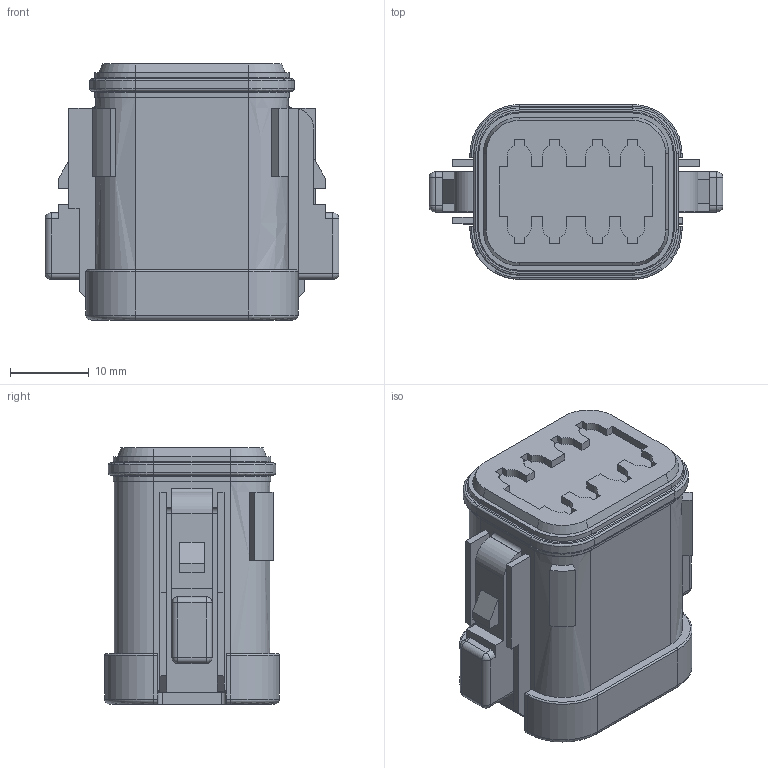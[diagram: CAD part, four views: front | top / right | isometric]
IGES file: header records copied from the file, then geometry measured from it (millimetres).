
Start section:  PTC IGES file: c-dt06-08sa-ep08-99-3d.igs
Global section: file name: c-dt06-08sa-ep08-99-3d.igs; native system: Pro/ENGINEER by Parametric Technology Corporation; preprocessor: 2011490; author: workeradm; organization: Unknown; units: millimetre
Bounding box: 37.21 x 22.15 x 32.44 mm (x, y, z)
Surface area: 5805.5 mm2 (no closed solid volume)
Topology: 0 solids, 0 shells, 557 faces, 2910 edges, 2910 vertices
Faces by surface type: bspline 335, revolution 222
